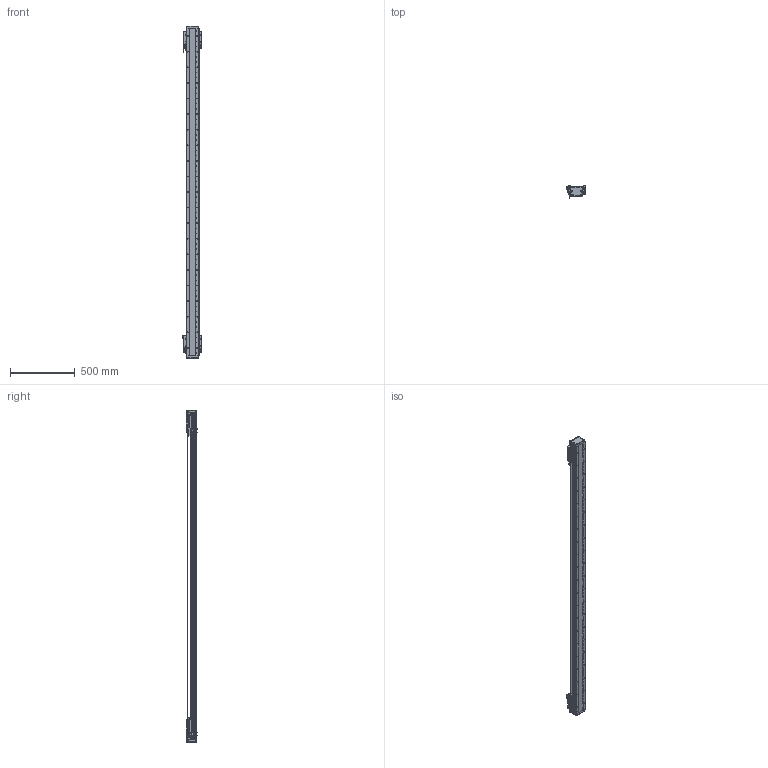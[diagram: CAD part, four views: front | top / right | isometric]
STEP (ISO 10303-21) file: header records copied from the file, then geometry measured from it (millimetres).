
FILE_DESCRIPTION (( 'STEP AP203' ), '1' );
FILE_NAME ('DA-B95-2-B15-T2180-C010-0.2 直线电机.STEP', '2023-05-06T06:37:13', ( '微软用户' ), ( '微软中国' ), 'SwSTEP 2.0', 'SolidWorks 2019', '' );
FILE_SCHEMA (( 'CONFIG_CONTROL_DESIGN' ));
Length unit declared in the file: millimetre
Products named in the file (34): 复件 复件 18252-0001-004-00 钢带端盖^DA-A95-B15-T-C010-0.2-N 直线电机; 复件 六角薄螺母 M3^DA-A95-B15-T-C010-0.2-N 直线电机_GB_FASTENER_NUT_STNAB M3-C; IU-BU95-L 菁釱絳寢; 复件 复件 18252-0001-002-00 钢带垫块^DA-A95-B15-T-C010-0.2-N 直线电机; 葩璃 DA95-B15-DP-A-00 菜えA^66245-BU95-V 幗紩賑怢; 复件 DKW-GYP-ZJ-00 中间光电感应片^DA-A95-B15-T-C010-0.2-N 直线电机; 葩璃 DA95-B15-DP--B-00 菜えB^66245-BU95-V 幗紩賑怢; 66245-BU95-V 幗紩賑怢; 66245-BU95-V-00 珨极趙賑雄怢啣; 复件 DA95-B15-YB-A-00 压板A^66245-BU95-V 滚珠滑台; DA-B95-2-B15-T2180-C010-0.2 眻盄萇儂; 复件 DKW-HXJ-JY-00 缓冲橡胶^DA-A95-B15-T-C010-0.2-N 直线电机; 葩璃 PM-Y45^DA-A95-B15-T-C010-0.2-N 眻盄萇儂; 葩璃 BKMA01-W060-TRL^DA-A95-B15-T-C010-0.2-N 眻盄萇儂; 复件 DA95-HK-GT-00 滑块钢轨^66245-BU95-V-00 一体化滑动台板; 葩璃 BKM015-W060-C1-TP-DA-0.2^DA-A95-B15-T-C010-0.2-N 眻盄萇儂; B15 XD-U-02L ｴﾅﾕ､ｳﾟ^DA-A95-B15-T-C010-0.2-N ﾖｱﾏﾟｵ扈銈XD-U-02L; 复件 66245-BU95-HT-V-01 滑动台板^66245-BU95-V-00 一体化滑动台板; 复件 DA95-DK-00 挡块^66245-BU95-V 滚珠滑台; 复件 DKW-KGZ-ZJ-00 中间光电开关支架^DA-A95-B15-T-C010-0.2-N 直线电机; 复件 复件 18252-0001-003-00 钢带拉块^DA-A95-B15-T-C010-0.2-N 直线电机; IU-BU95-L-00 菁釱_L2520; 复件 DA95-B15 钢带盖板^DA-A95-B15-T-C010-0.2-N 直线电机; 葩璃 DA95-GT-T-00^IU-BU95-L 菁釱絳寢_DA95; 复件 DA95-B15-YB-B-00 压板B^66245-BU95-V 滚珠滑台; LMDK-2-R001-V5-L02-C1-F00，0.2M 读数头^DA-A95-B15-T-C010-0.2-N 直线电机_DMA-010-0.2; PM-T45 光电开关^DA-A95-B15-T-C010-0.2-N 直线电机; 复件 DA95-MFP-01 密封片^66245-BU95-V 滚珠滑台; DA-A95-GYP-00 光电感应片^DA-A95-B15-T-C010-0.2-N 直线电机; 复件 DA95-DB-00  挡板^66245-BU95-V 滚珠滑台; 复件 纯铜油杯 6x6mm^66245-BU95-V 滚珠滑台; DA95-HXJ-00 缓冲橡胶^DA-A95-B15-T-C010-0.2-N 直线电机
Assembly tree (80 placements, depth 4):
  DA-B95-2-B15-T2180-C010-0.2 眻盄萇儂
    IU-BU95-L 菁釱絳寢
      IU-BU95-L-00 菁釱_L2520
      葩璃 DA95-GT-T-00^IU-BU95-L 菁釱絳寢_DA95  x2
    66245-BU95-V 幗紩賑怢
      66245-BU95-V-00 珨极趙賑雄怢啣
        复件 66245-BU95-HT-V-01 滑动台板^66245-BU95-V-00 一体化滑动台板
        复件 DA95-HK-GT-00 滑块钢轨^66245-BU95-V-00 一体化滑动台板  x2
      葩璃 DA95-B15-DP-A-00 菜えA^66245-BU95-V 幗紩賑怢
      复件 DA95-B15-YB-A-00 压板A^66245-BU95-V 滚珠滑台
      复件 DA95-B15-YB-B-00 压板B^66245-BU95-V 滚珠滑台
      复件 DA95-DB-00  挡板^66245-BU95-V 滚珠滑台  x4
      复件 DA95-DK-00 挡块^66245-BU95-V 滚珠滑台  x2
      复件 DA95-MFP-01 密封片^66245-BU95-V 滚珠滑台  x4
      复件 纯铜油杯 6x6mm^66245-BU95-V 滚珠滑台  x2
      葩璃 DA95-B15-DP--B-00 菜えB^66245-BU95-V 幗紩賑怢
    66245-BU95-V 幗紩賑怢
      66245-BU95-V-00 珨极趙賑雄怢啣
        复件 66245-BU95-HT-V-01 滑动台板^66245-BU95-V-00 一体化滑动台板
        复件 DA95-HK-GT-00 滑块钢轨^66245-BU95-V-00 一体化滑动台板  x2
      葩璃 DA95-B15-DP-A-00 菜えA^66245-BU95-V 幗紩賑怢
      复件 DA95-B15-YB-A-00 压板A^66245-BU95-V 滚珠滑台
      复件 DA95-B15-YB-B-00 压板B^66245-BU95-V 滚珠滑台
      复件 DA95-DB-00  挡板^66245-BU95-V 滚珠滑台  x4
      复件 DA95-DK-00 挡块^66245-BU95-V 滚珠滑台  x2
      复件 DA95-MFP-01 密封片^66245-BU95-V 滚珠滑台  x4
      复件 纯铜油杯 6x6mm^66245-BU95-V 滚珠滑台  x2
      葩璃 DA95-B15-DP--B-00 菜えB^66245-BU95-V 幗紩賑怢
    DA-A95-GYP-00 光电感应片^DA-A95-B15-T-C010-0.2-N 直线电机  x2
    LMDK-2-R001-V5-L02-C1-F00，0.2M 读数头^DA-A95-B15-T-C010-0.2-N 直线电机_DMA-010-0.2  x2
    复件 DKW-KGZ-ZJ-00 中间光电开关支架^DA-A95-B15-T-C010-0.2-N 直线电机
    葩璃 PM-Y45^DA-A95-B15-T-C010-0.2-N 眻盄萇儂
    复件 DKW-GYP-ZJ-00 中间光电感应片^DA-A95-B15-T-C010-0.2-N 直线电机
    葩璃 BKM015-W060-C1-TP-DA-0.2^DA-A95-B15-T-C010-0.2-N 眻盄萇儂  x2
    复件 DKW-HXJ-JY-00 缓冲橡胶^DA-A95-B15-T-C010-0.2-N 直线电机  x2
    PM-T45 光电开关^DA-A95-B15-T-C010-0.2-N 直线电机  x4
    B15 XD-U-02L ｴﾅﾕ､ｳﾟ^DA-A95-B15-T-C010-0.2-N ﾖｱﾏﾟｵ扈銈XD-U-02L
    复件 复件 18252-0001-003-00 钢带拉块^DA-A95-B15-T-C010-0.2-N 直线电机  x2
    复件 复件 18252-0001-002-00 钢带垫块^DA-A95-B15-T-C010-0.2-N 直线电机  x2
    复件 复件 18252-0001-004-00 钢带端盖^DA-A95-B15-T-C010-0.2-N 直线电机  x2
    复件 DA95-B15 钢带盖板^DA-A95-B15-T-C010-0.2-N 直线电机
    DA95-HXJ-00 缓冲橡胶^DA-A95-B15-T-C010-0.2-N 直线电机  x4
    葩璃 BKMA01-W060-TRL^DA-A95-B15-T-C010-0.2-N 眻盄萇儂
    复件 六角薄螺母 M3^DA-A95-B15-T-C010-0.2-N 直线电机_GB_FASTENER_NUT_STNAB M3-C  x6
Bounding box: 145.4 x 90.2 x 2556 mm (x, y, z)
Volume: 8306834.7 mm3; surface area: 2750238.5 mm2
Topology: 75 solids, 93 shells, 4204 faces, 11836 edges, 7503 vertices
Faces by surface type: cylinder 2157, plane 1515, cone 464, torus 64, sphere 4
Entity records: 101484 total; most frequent: CARTESIAN_POINT 26458, ORIENTED_EDGE 15030, DIRECTION 14560, EDGE_CURVE 7515, AXIS2_PLACEMENT_3D 5541, VERTEX_POINT 4905, VECTOR 3478, LINE 3478
